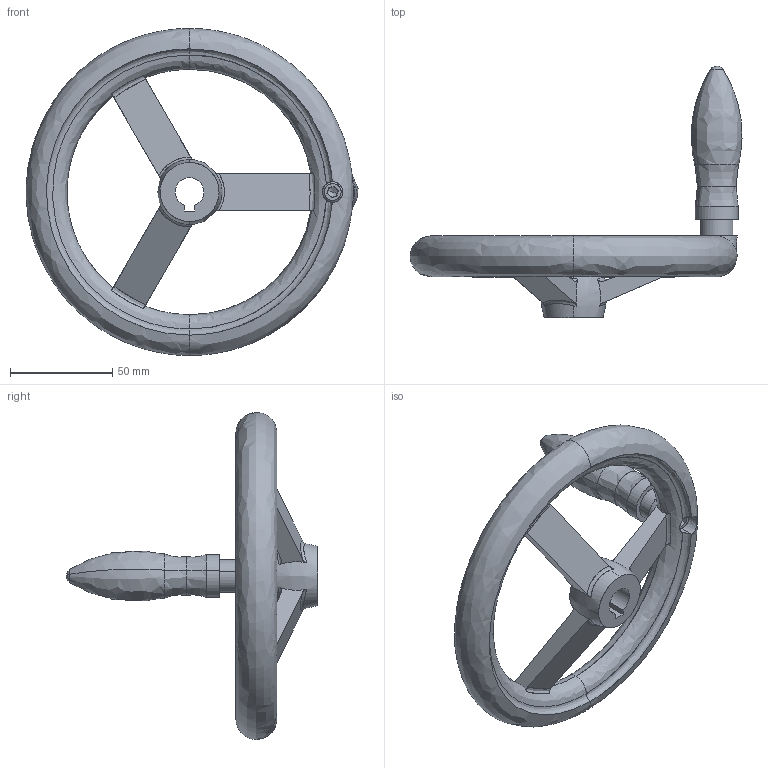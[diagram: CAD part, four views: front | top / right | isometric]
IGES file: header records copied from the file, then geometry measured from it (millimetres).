
Start section: SolidWorks IGES file using analytic representation for surfaces
Global section: file name: C:\Users\IanO\Desktop\Temp File\Process pending\77120_v2\77120_v2_20171108_IGES\77120.W0320.igs; native system: SolidWorks 2017; preprocessor: SolidWorks 2017; author: IanO; date: 171108.083535; units: millimetre
Bounding box: 162.38 x 123 x 160 mm (x, y, z)
Surface area: 50066 mm2 (no closed solid volume)
Topology: 0 solids, 0 shells, 142 faces, 1862 edges, 1853 vertices
Faces by surface type: bspline 85, revolution 57
